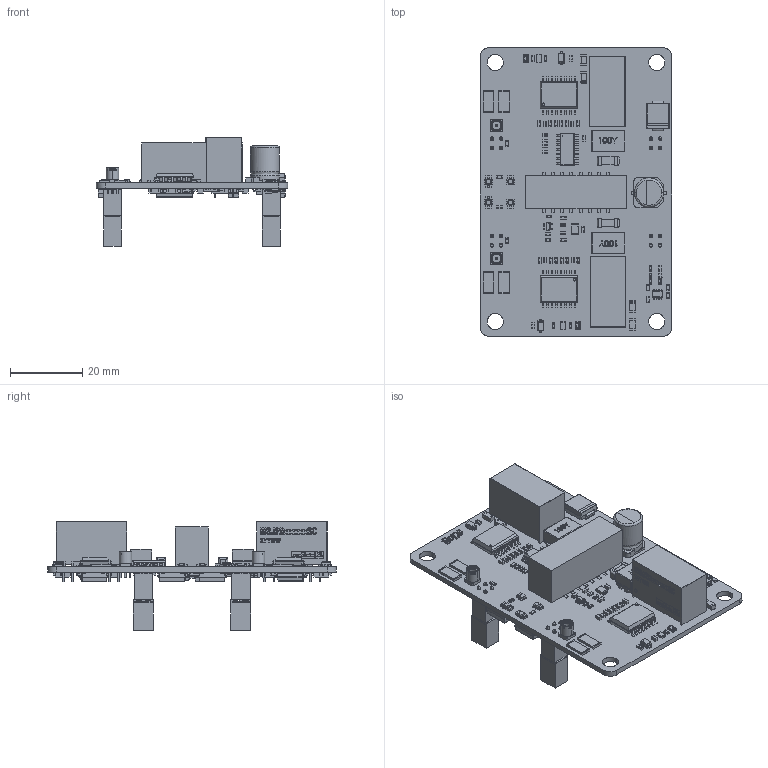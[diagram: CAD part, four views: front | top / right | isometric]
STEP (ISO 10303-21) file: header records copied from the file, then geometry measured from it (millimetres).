
FILE_DESCRIPTION (( 'STEP AP203' ), '1' );
FILE_NAME ('CGD1700HB2P-XM3.STEP', '2023-01-25T19:27:41', ( '' ), ( '' ), 'SwSTEP 2.0', 'SolidWorks 2022', '' );
FILE_SCHEMA (( 'CONFIG_CONTROL_DESIGN' ));
Length unit declared in the file: inch
Products named in the file (17): CGD1700HB2P-XM3_REV2; ISO7810DWR; CL10C560JB8NNNC; RC0603FR-07120RL; RC0603JR-07330RL; RNCP0603FTD1K00; SBH11-NBPC-D08-SM-BK; ERJ-3EKF1002V; RCS0805510RFKEA; CGD1700HB2P-XM3; MMCX-J-P-H-ST-TH1; WSL060300000ZEA9; BAT42W-TP; MP5000ADQ-LF-P; RMCF0805FT200R; SN74LVC2G17DCKR; CL10B103KA8NNNC
Assembly tree (67 placements, depth 2):
  CGD1700HB2P-XM3
    CGD1700HB2P-XM3_REV2
    RCS0805510RFKEA  x2
    RNCP0603FTD1K00  x2
    RMCF0805FT200R  x2
    BAT42W-TP  x2
    RC0603JR-07330RL  x10
    RC0603FR-07120RL  x21
    SBH11-NBPC-D08-SM-BK
    CL10C560JB8NNNC  x3
    ERJ-3EKF1002V  x15
    WSL060300000ZEA9
    MMCX-J-P-H-ST-TH1  x2
    CL10B103KA8NNNC  x2
    MP5000ADQ-LF-P
    ISO7810DWR
    SN74LVC2G17DCKR
Bounding box: 53 x 80 x 30.13 mm (x, y, z)
Volume: 3073.8 mm3; surface area: 24179.9 mm2
Topology: 206 solids, 645 shells, 12534 faces, 29506 edges, 18129 vertices
Faces by surface type: plane 9227, cylinder 2153, bspline 700, torus 264, sphere 148, cone 42
Entity records: 333930 total; most frequent: CARTESIAN_POINT 139149, ORIENTED_EDGE 49190, EDGE_CURVE 24702, DIRECTION 22609, B_SPLINE_CURVE_WITH_KNOTS 22311, VERTEX_POINT 15233, EDGE_LOOP 10749, ADVANCED_FACE 10511
